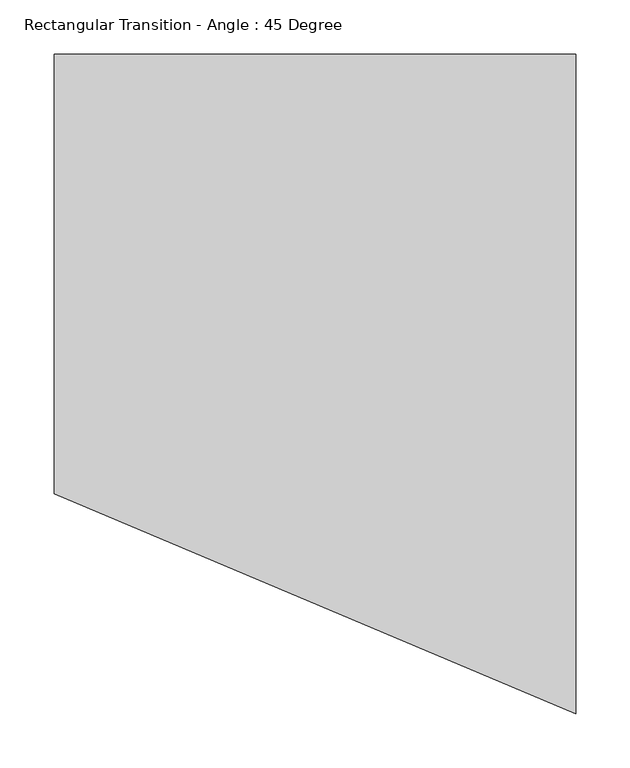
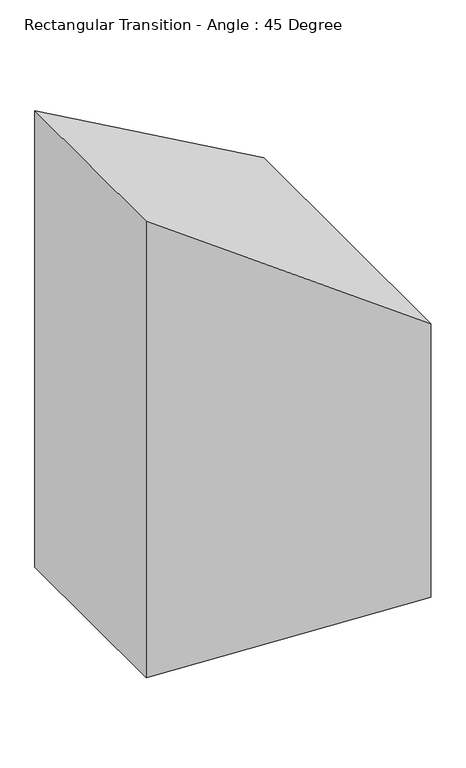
"""IFC4 building model written with IfcOpenShell, lengths in millimetres: duct fitting geometry, Rectangular Transition - Angle : 45 Degree."""

from ifc_helpers import new_model, si_unit, origin, place, context, project, spatial, faceted_brep, source, transform, mapped, element, save


def rectangular_transition_angle_45_degree_e3061ba4(model_context):
    return source(origin(), model_context, "Body", "Brep", [
        faceted_brep([(481.9637446, -406.4, 235.0056257), (481.9637446, -406.4, -374.5943743), (481.9637446, 203.2, -374.5943743), (481.9637446, 203.2, 235.0056257), (0.0, -203.2, 508.0), (0.0, 203.2, 508.0), (0.0, 203.2, -508.0), (0.0, -203.2, -508.0)], [[[0, 1, 2, 3]], [[4, 5, 6, 7]], [[4, 7, 1, 0]], [[7, 6, 2, 1]], [[6, 5, 3, 2]], [[5, 4, 0, 3]]]),
    ])


if __name__ == "__main__":
    model = new_model("IFC4")
    model_context = context("Model", 3, world=origin())
    ifc_project = project(units=[si_unit("LENGTHUNIT", "METRE", prefix="MILLI")], contexts=[model_context])
    site = spatial("IfcSite", under=ifc_project)
    building = spatial("IfcBuilding", under=site)
    placement = place(None, origin())
    rectangular_transition_angle_45_degree_shape = rectangular_transition_angle_45_degree_e3061ba4(model_context)
    element("IfcDuctFitting", 1, ObjectType="Rectangular Transition - Angle : 45 Degree", at=placement, inside=building, context=model_context, shape_type="MappedRepresentation", body=[
        mapped(rectangular_transition_angle_45_degree_shape, transform((0.0, 0.0, 0.0), x_axis=(1.0, 0.0, 0.0), y_axis=(0.0, 1.0, 0.0), z_axis=(0.0, 0.0, 1.0))),
    ])
    save(model, "model.ifc")
